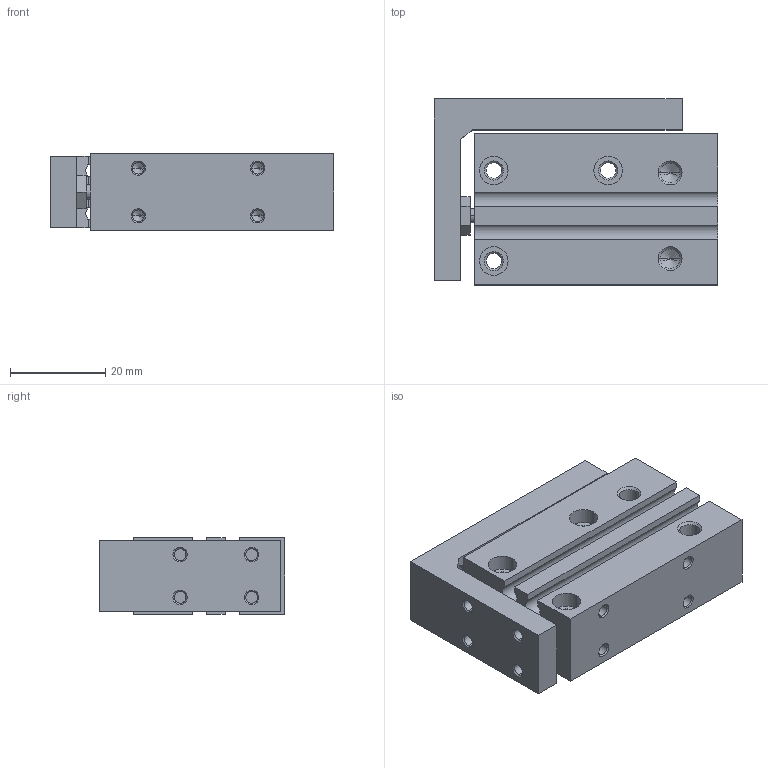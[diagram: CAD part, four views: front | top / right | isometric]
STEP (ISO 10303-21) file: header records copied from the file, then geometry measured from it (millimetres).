
FILE_DESCRIPTION (( 'STEP AP203' ), '1' );
FILE_NAME ('CXH6-20.STEP', '2020-04-16T18:01:19', ( '' ), ( '' ), 'SwSTEP 2.0', 'SolidWorks 2019', '' );
FILE_SCHEMA (( 'CONFIG_CONTROL_DESIGN' ));
Length unit declared in the file: millimetre
Products named in the file (1): CXH6-20
Bounding box: 59.5 x 39 x 16 mm (x, y, z)
Volume: 28076.9 mm3; surface area: 14337 mm2
Topology: 2 solids, 2 shells, 208 faces, 495 edges, 286 vertices
Faces by surface type: cone 88, cylinder 76, plane 44
Entity records: 6004 total; most frequent: DIRECTION 1093, CARTESIAN_POINT 1080, ORIENTED_EDGE 934, EDGE_CURVE 467, AXIS2_PLACEMENT_3D 421, VERTEX_POINT 286, EDGE_LOOP 253, LINE 251
